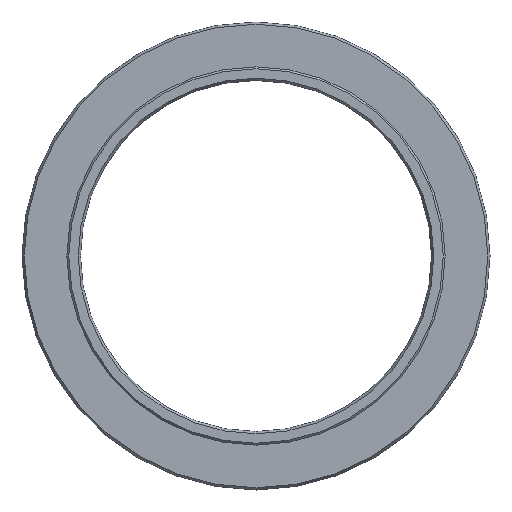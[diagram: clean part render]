
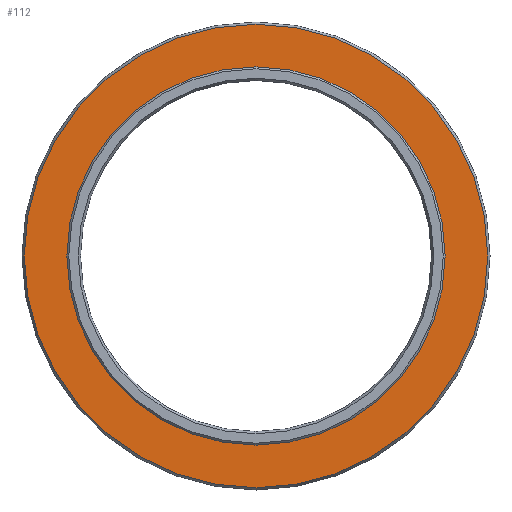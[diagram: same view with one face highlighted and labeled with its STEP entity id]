
A CAD part, left-side view. The second image highlights one B-rep face of the part: STEP entity #112.
In plain terms, the highlighted planar face has unit normal (-1, 0, 0).
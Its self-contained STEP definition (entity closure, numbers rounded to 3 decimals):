
#107=PLANE('',#279);
#112=ADVANCED_FACE('',(#131,#132),#107,.T.);
#131=FACE_BOUND('',#163,.T.);
#132=FACE_BOUND('',#164,.T.);
#163=EDGE_LOOP('',(#195));
#164=EDGE_LOOP('',(#196));
#195=ORIENTED_EDGE('',*,*,#243,.T.);
#196=ORIENTED_EDGE('',*,*,#244,.T.);
#227=VERTEX_POINT('',#379);
#228=VERTEX_POINT('',#381);
#243=EDGE_CURVE('',#227,#227,#259,.T.);
#244=EDGE_CURVE('',#228,#228,#260,.T.);
#259=CIRCLE('',#277,59.423);
#260=CIRCLE('',#278,48.5);
#277=AXIS2_PLACEMENT_3D('',#378,#314,#315);
#278=AXIS2_PLACEMENT_3D('',#380,#316,#317);
#279=AXIS2_PLACEMENT_3D('',#382,#318,#319);
#314=DIRECTION('',(-1.,0.,0.));
#315=DIRECTION('',(0.,0.,1.));
#316=DIRECTION('',(1.,0.,0.));
#317=DIRECTION('',(0.,0.,-1.));
#318=DIRECTION('',(-1.,0.,0.));
#319=DIRECTION('',(0.,0.,1.));
#378=CARTESIAN_POINT('',(0.,0.,0.));
#379=CARTESIAN_POINT('',(0.,0.,59.423));
#380=CARTESIAN_POINT('',(0.,0.,0.));
#381=CARTESIAN_POINT('',(0.,0.,-48.5));
#382=CARTESIAN_POINT('',(0.,60.,0.));
